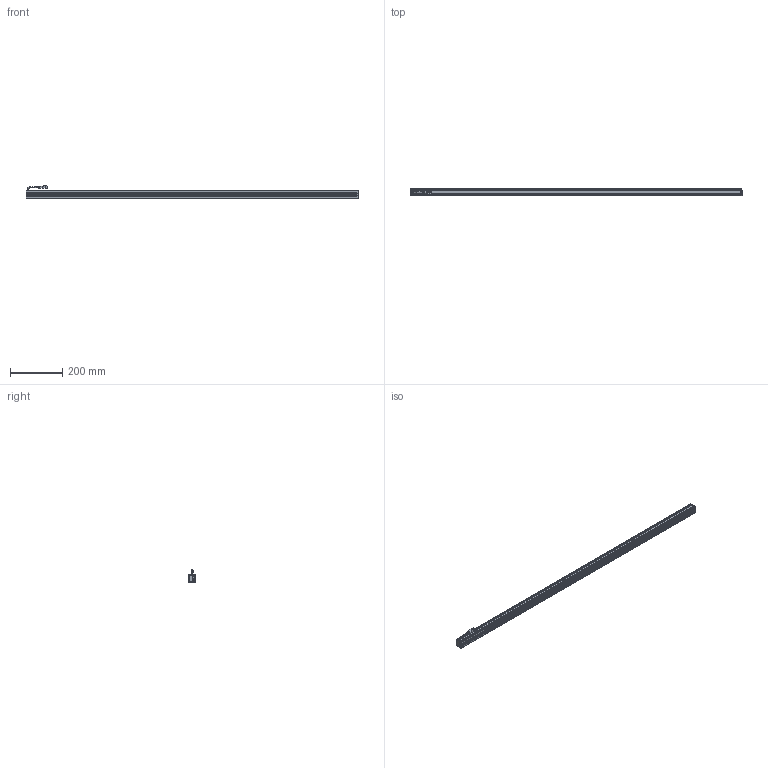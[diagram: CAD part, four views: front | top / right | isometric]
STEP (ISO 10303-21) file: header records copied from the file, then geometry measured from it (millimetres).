
FILE_DESCRIPTION (( 'STEP AP203' ), '1' );
FILE_NAME ('CK-BL127228.STEP', '2026-01-02T08:43:18', ( '' ), ( '' ), 'SwSTEP 2.0', 'SolidWorks 2022', '' );
FILE_SCHEMA (( 'CONFIG_CONTROL_DESIGN' ));
Length unit declared in the file: millimetre
Products named in the file (6): CK-BL127228; CK-BL127228-003A; 光源线-01; 十字沉头螺丝 M2x10; CK-BL127228-001A; CK-BL127228-002A
Assembly tree (11 placements, depth 2):
  CK-BL127228
    CK-BL127228-001A
    CK-BL127228-002A  x2
    CK-BL127228-003A
    光源线-01
    十字沉头螺丝 M2x10  x6
Bounding box: 1272 x 27 x 47.34 mm (x, y, z)
Volume: 404955.6 mm3; surface area: 354149.1 mm2
Topology: 13 solids, 13 shells, 575 faces, 1494 edges, 950 vertices
Faces by surface type: plane 337, cylinder 172, cone 46, bspline 20
Entity records: 13997 total; most frequent: CARTESIAN_POINT 2782, ORIENTED_EDGE 2202, DIRECTION 2163, EDGE_CURVE 1101, VECTOR 781, LINE 781, VERTEX_POINT 714, AXIS2_PLACEMENT_3D 691
